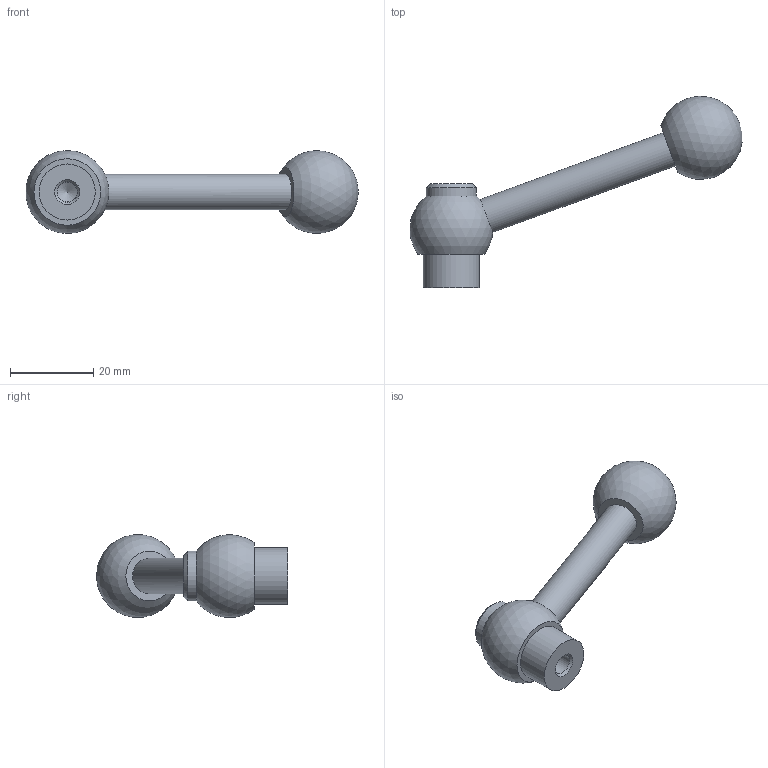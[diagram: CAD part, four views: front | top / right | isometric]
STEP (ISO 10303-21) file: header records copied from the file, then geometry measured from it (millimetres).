
FILE_DESCRIPTION( ( 'STEP AP203' ), '1' );
FILE_NAME( 'C:/Temp/Ganter_Step_05_03_2020/data/2_1/gn_6337_3/gn_6337_3_mb/gn_6337_3_mb_n/Adjustable clamping lever GN 6337.3-20-M6-N.stp', '2020-03-05T11:41:11', ( 'License CC BY-ND 4.0' ), ( 'CADENAS' ), ' ', 'PARTsolutions', ' ' );
FILE_SCHEMA( ( 'CONFIG_CONTROL_DESIGN' ) );
Length unit declared in the file: millimetre
Products named in the file (1): _Adjustable clamping lever GN 6337.3-20-M6-N
Bounding box: 79.86 x 45.99 x 19.98 mm (x, y, z)
Volume: 11545.1 mm3; surface area: 4203.5 mm2
Topology: 1 solids, 1 shells, 15 faces, 29 edges, 19 vertices
Faces by surface type: cylinder 5, plane 5, cone 3, sphere 2
Full cylindrical faces by diameter (mm): 4.8 x1, 4.917 x1, 8.5 x1, 12 x1, 13.5 x1
Entity records: 408 total; most frequent: CARTESIAN_POINT 111, DIRECTION 58, AXIS2_PLACEMENT_3D 29, EDGE_LOOP 28, ORIENTED_EDGE 28, FACE_OUTER_BOUND 21, VERTEX_POINT 16, ADVANCED_FACE 15
